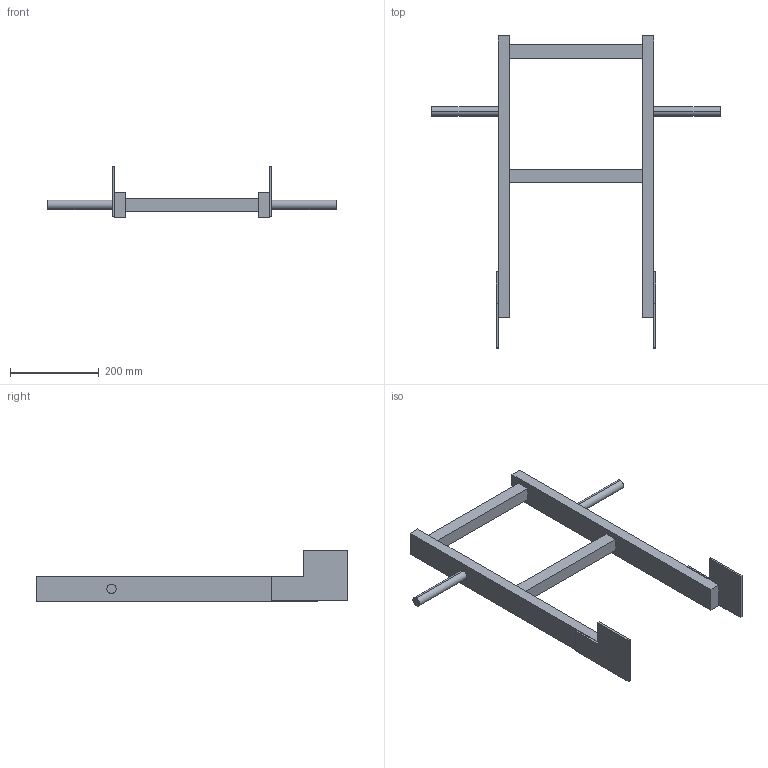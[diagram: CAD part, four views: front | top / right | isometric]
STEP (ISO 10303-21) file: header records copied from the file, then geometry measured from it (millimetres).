
FILE_DESCRIPTION((''),'2;1');
FILE_NAME('52330562','2024-12-18T07:59:43',('wep'),('HUBER SE'),'CREO PARAMETRIC BY PTC INC, 2022162','CREO PARAMETRIC BY PTC INC, 2022162','');
FILE_SCHEMA(('AUTOMOTIVE_DESIGN { 1 0 10303 214 1 1 1 1 }'));
Length unit declared in the file: millimetre
Products named in the file (1): 52330562
Bounding box: 650 x 703 x 115 mm (x, y, z)
Volume: 2606538.2 mm3; surface area: 346354.8 mm2
Topology: 1 solids, 1 shells, 42 faces, 104 edges, 68 vertices
Faces by surface type: plane 38, cylinder 4
Entity records: 1787 total; most frequent: CARTESIAN_POINT 216, ORIENTED_EDGE 208, DIRECTION 196, COLOUR_RGB 106, EDGE_CURVE 104, VECTOR 96, LINE 96, PROPERTY_DEFINITION 77
